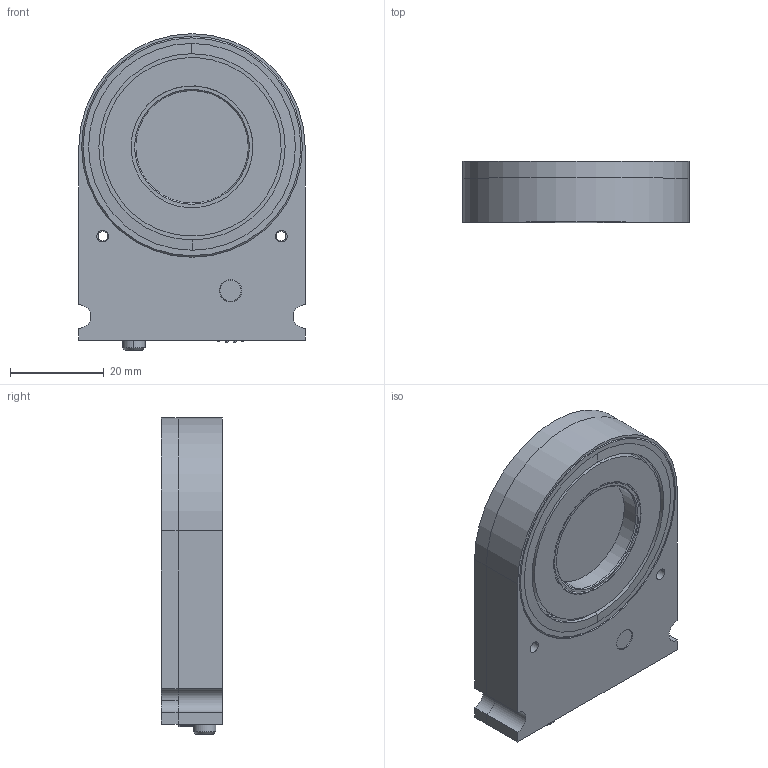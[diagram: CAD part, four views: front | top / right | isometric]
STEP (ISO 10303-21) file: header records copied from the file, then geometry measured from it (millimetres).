
FILE_DESCRIPTION (( 'STEP AP214' ), '1' );
FILE_NAME ('POL-25.STEP', '2012-06-27T15:20:56', ( '' ), ( '' ), 'SwSTEP 2.0', 'SolidWorks 2012', '' );
FILE_SCHEMA (( 'AUTOMOTIVE_DESIGN' ));
Length unit declared in the file: inch
Products named in the file (1): POL-25
Bounding box: 48.26 x 13.14 x 67.54 mm (x, y, z)
Surface area: 19548.2 mm2 (no closed solid volume)
Topology: 0 solids, 20 shells, 217 faces, 1425 edges, 1211 vertices
Faces by surface type: cylinder 71, plane 69, bspline 33, cone 32, torus 12
Entity records: 21729 total; most frequent: CARTESIAN_POINT 9009, ORIENTED_EDGE 1882, DIRECTION 1844, EDGE_CURVE 1425, VERTEX_POINT 1211, AXIS2_PLACEMENT_3D 745, CIRCLE 560, B_SPLINE_CURVE_WITH_KNOTS 491
